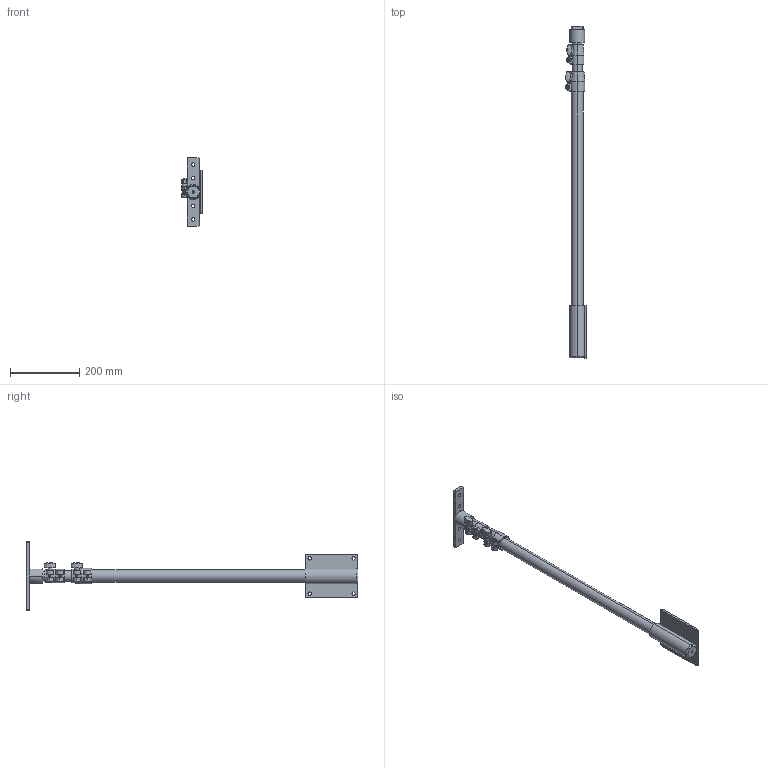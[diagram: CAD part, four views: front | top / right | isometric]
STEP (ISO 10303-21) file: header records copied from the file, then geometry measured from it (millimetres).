
FILE_DESCRIPTION (( 'STEP AP214' ), '1' );
FILE_NAME ('TPM Assembly Retracted.STEP', '2015-04-21T20:27:39', ( '' ), ( '' ), 'SwSTEP 2.0', 'SolidWorks 2015', '' );
FILE_SCHEMA (( 'AUTOMOTIVE_DESIGN' ));
Length unit declared in the file: inch
Products named in the file (9): TPM Assembly Retracted; Knob; hex nut_ai_HNUT 0.2500-20-D-N; socket head cap screw_ai_HX-SHCS 0.25-20x0.875x0.875-S; hex screw_ai_PL-HHMS 0.19-32x1.25x1.25-S; flat washer type b regular_ai_Regular FW 0.19; tripod piece 3; standard head; One legged tripod Retracted
Assembly tree (13 placements, depth 2):
  TPM Assembly Retracted
    One legged tripod Retracted
    standard head
    tripod piece 3
    flat washer type b regular_ai_Regular FW 0.19  x2
    hex screw_ai_PL-HHMS 0.19-32x1.25x1.25-S  x2
    socket head cap screw_ai_HX-SHCS 0.25-20x0.875x0.875-S  x2
    hex nut_ai_HNUT 0.2500-20-D-N  x2
    Knob  x2
Bounding box: 61.01 x 958.6 x 198.93 mm (x, y, z)
Volume: 823044.5 mm3; surface area: 302198.9 mm2
Topology: 14 solids, 14 shells, 1025 faces, 2586 edges, 1616 vertices
Faces by surface type: cone 520, cylinder 350, plane 143, torus 6, bspline 6
Entity records: 18666 total; most frequent: DIRECTION 3498, CARTESIAN_POINT 3308, ORIENTED_EDGE 2968, EDGE_CURVE 1484, AXIS2_PLACEMENT_3D 1457, VERTEX_POINT 935, CIRCLE 850, EDGE_LOOP 659
